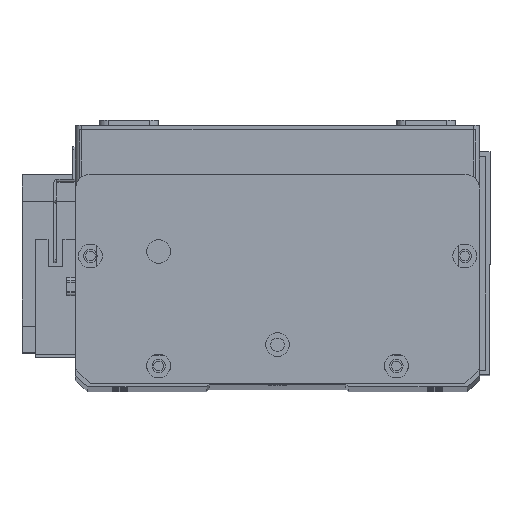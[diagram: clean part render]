
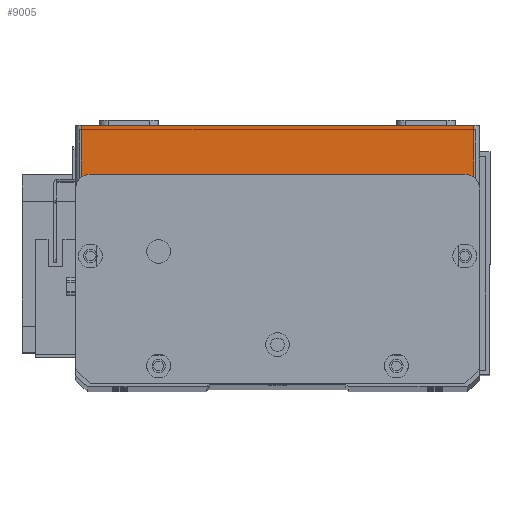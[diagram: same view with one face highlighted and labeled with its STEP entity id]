
A CAD part, top view. The second image highlights one B-rep face of the part: STEP entity #9005.
In plain terms, the highlighted planar face has unit normal (0, 0, 1) as drawn and (0, -1, 0) by its records, which use the part's own axes.
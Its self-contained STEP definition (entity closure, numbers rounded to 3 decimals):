
#1049 = VERTEX_POINT ( 'NONE', #22812 ) ;
#1869 = CARTESIAN_POINT ( 'NONE',  ( 2., 0., 19.5 ) ) ;
#2360 = DIRECTION ( 'NONE',  ( 1., 0., 0. ) ) ;
#2425 = AXIS2_PLACEMENT_3D ( 'NONE', #14790, #8411, #7512 ) ;
#2550 = FACE_OUTER_BOUND ( 'NONE', #23538, .T. ) ;
#3138 = CARTESIAN_POINT ( 'NONE',  ( 0., 0., 0. ) ) ;
#4068 = CARTESIAN_POINT ( 'NONE',  ( 134., 0., 19.5 ) ) ;
#4207 = LINE ( 'NONE', #16368, #26665 ) ;
#4911 = EDGE_CURVE ( 'NONE', #10004, #14346, #19378, .T. ) ;
#6112 = VERTEX_POINT ( 'NONE', #4068 ) ;
#7512 = DIRECTION ( 'NONE',  ( 0., 0., 1. ) ) ;
#8411 = DIRECTION ( 'NONE',  ( 0., 1., 0. ) ) ;
#9005 = ADVANCED_FACE ( 'NONE', ( #2550 ), #24308, .F. ) ;
#9543 = DIRECTION ( 'NONE',  ( 1., 0., 0. ) ) ;
#9980 = EDGE_CURVE ( 'NONE', #14346, #1049, #14135, .T. ) ;
#10004 = VERTEX_POINT ( 'NONE', #1869 ) ;
#11748 = CARTESIAN_POINT ( 'NONE',  ( 134., 0., 19.5 ) ) ;
#12806 = ORIENTED_EDGE ( 'NONE', *, *, #27748, .F. ) ;
#13195 = ORIENTED_EDGE ( 'NONE', *, *, #4911, .T. ) ;
#13328 = LINE ( 'NONE', #11748, #23947 ) ;
#13765 = ORIENTED_EDGE ( 'NONE', *, *, #9980, .T. ) ;
#14135 = LINE ( 'NONE', #3138, #19533 ) ;
#14346 = VERTEX_POINT ( 'NONE', #19865 ) ;
#14790 = CARTESIAN_POINT ( 'NONE',  ( 0., 0., 19.5 ) ) ;
#14983 = ORIENTED_EDGE ( 'NONE', *, *, #19667, .T. ) ;
#16222 = DIRECTION ( 'NONE',  ( 0., 0., 1. ) ) ;
#16368 = CARTESIAN_POINT ( 'NONE',  ( 0., 0., 19.5 ) ) ;
#19378 = LINE ( 'NONE', #21519, #23904 ) ;
#19533 = VECTOR ( 'NONE', #2360, 1000. ) ;
#19667 = EDGE_CURVE ( 'NONE', #1049, #6112, #13328, .T. ) ;
#19865 = CARTESIAN_POINT ( 'NONE',  ( 2., 0., 0. ) ) ;
#21519 = CARTESIAN_POINT ( 'NONE',  ( 2., 0., 19.5 ) ) ;
#22073 = DIRECTION ( 'NONE',  ( 0., 0., -1. ) ) ;
#22812 = CARTESIAN_POINT ( 'NONE',  ( 134., 0., 0. ) ) ;
#23538 = EDGE_LOOP ( 'NONE', ( #12806, #13195, #13765, #14983 ) ) ;
#23904 = VECTOR ( 'NONE', #22073, 1000. ) ;
#23947 = VECTOR ( 'NONE', #16222, 1000. ) ;
#24308 = PLANE ( 'NONE',  #2425 ) ;
#26665 = VECTOR ( 'NONE', #9543, 1000. ) ;
#27748 = EDGE_CURVE ( 'NONE', #10004, #6112, #4207, .T. ) ;
